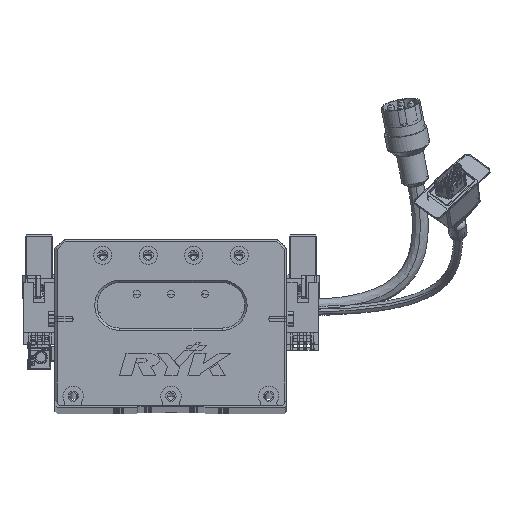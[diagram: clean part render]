
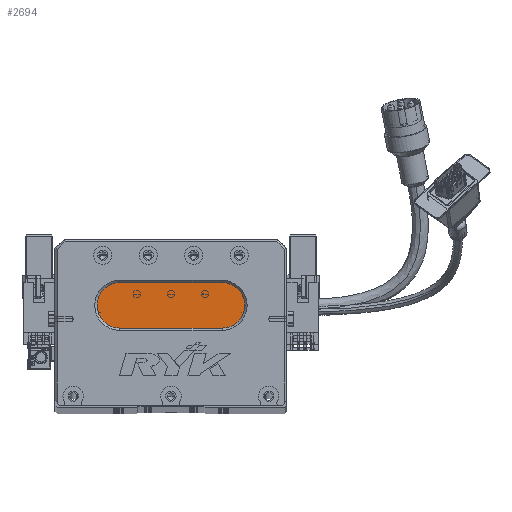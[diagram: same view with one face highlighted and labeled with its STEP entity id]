
A CAD part, top view. The second image highlights one B-rep face of the part: STEP entity #2694.
In plain terms, the highlighted planar face has unit normal (0, 0, 1) as drawn and (0, 0, -1) by its records, which use the part's own axes.
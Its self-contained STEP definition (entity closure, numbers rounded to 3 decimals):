
#611 = EDGE_CURVE ( 'NONE', #38231, #10631, #59065, .T. ) ;
#1949 = ORIENTED_EDGE ( 'NONE', *, *, #70136, .T. ) ;
#2694 = ADVANCED_FACE ( 'NONE', ( #69501 ), #73663, .T. ) ;
#9377 = CIRCLE ( 'NONE', #10289, 10. ) ;
#10289 = AXIS2_PLACEMENT_3D ( 'NONE', #35816, #64067, #52603 ) ;
#10631 = VERTEX_POINT ( 'NONE', #71357 ) ;
#11546 = ORIENTED_EDGE ( 'NONE', *, *, #39794, .T. ) ;
#12191 = AXIS2_PLACEMENT_3D ( 'NONE', #15388, #44870, #21767 ) ;
#12397 = CIRCLE ( 'NONE', #69295, 10. ) ;
#15388 = CARTESIAN_POINT ( 'NONE',  ( 73.5, 44., 13. ) ) ;
#21508 = CARTESIAN_POINT ( 'NONE',  ( 73.5, 34., 13. ) ) ;
#21767 = DIRECTION ( 'NONE',  ( -1., 0., 0. ) ) ;
#22023 = CARTESIAN_POINT ( 'NONE',  ( 73.5, 34., 13. ) ) ;
#23112 = EDGE_LOOP ( 'NONE', ( #1949, #70956, #51145, #62668, #11546 ) ) ;
#27033 = DIRECTION ( 'NONE',  ( 0., 0., -1. ) ) ;
#30213 = CARTESIAN_POINT ( 'NONE',  ( 28.5, 34., 13. ) ) ;
#30347 = VECTOR ( 'NONE', #67032, 1000. ) ;
#35816 = CARTESIAN_POINT ( 'NONE',  ( 28.5, 44., 13. ) ) ;
#37294 = VERTEX_POINT ( 'NONE', #30213 ) ;
#38026 = VERTEX_POINT ( 'NONE', #22023 ) ;
#38231 = VERTEX_POINT ( 'NONE', #66961 ) ;
#38454 = CARTESIAN_POINT ( 'NONE',  ( 28.5, 44., 13. ) ) ;
#38498 = DIRECTION ( 'NONE',  ( 0., 0., -1. ) ) ;
#39061 = EDGE_CURVE ( 'NONE', #37294, #38231, #9377, .T. ) ;
#39794 = EDGE_CURVE ( 'NONE', #10631, #60292, #42080, .T. ) ;
#41581 = DIRECTION ( 'NONE',  ( 1., 0., 0. ) ) ;
#42080 = LINE ( 'NONE', #59153, #70277 ) ;
#43059 = DIRECTION ( 'NONE',  ( -1., 0., 0. ) ) ;
#44870 = DIRECTION ( 'NONE',  ( 0., 0., -1. ) ) ;
#49387 = LINE ( 'NONE', #21508, #30347 ) ;
#51145 = ORIENTED_EDGE ( 'NONE', *, *, #39061, .T. ) ;
#52603 = DIRECTION ( 'NONE',  ( -1., 0., 0. ) ) ;
#59065 = CIRCLE ( 'NONE', #65663, 10. ) ;
#59153 = CARTESIAN_POINT ( 'NONE',  ( 73.5, 54., 13. ) ) ;
#60292 = VERTEX_POINT ( 'NONE', #71437 ) ;
#62668 = ORIENTED_EDGE ( 'NONE', *, *, #611, .T. ) ;
#64067 = DIRECTION ( 'NONE',  ( 0., 0., -1. ) ) ;
#65663 = AXIS2_PLACEMENT_3D ( 'NONE', #38454, #27033, #67716 ) ;
#66731 = CARTESIAN_POINT ( 'NONE',  ( 73.5, 44., 13. ) ) ;
#66961 = CARTESIAN_POINT ( 'NONE',  ( 18.5, 44., 13. ) ) ;
#67032 = DIRECTION ( 'NONE',  ( -1., 0., 0. ) ) ;
#67716 = DIRECTION ( 'NONE',  ( -1., 0., 0. ) ) ;
#69295 = AXIS2_PLACEMENT_3D ( 'NONE', #66731, #38498, #43059 ) ;
#69501 = FACE_OUTER_BOUND ( 'NONE', #23112, .T. ) ;
#70136 = EDGE_CURVE ( 'NONE', #60292, #38026, #12397, .T. ) ;
#70277 = VECTOR ( 'NONE', #41581, 1000. ) ;
#70956 = ORIENTED_EDGE ( 'NONE', *, *, #73079, .T. ) ;
#71357 = CARTESIAN_POINT ( 'NONE',  ( 28.5, 54., 13. ) ) ;
#71437 = CARTESIAN_POINT ( 'NONE',  ( 73.5, 54., 13. ) ) ;
#73079 = EDGE_CURVE ( 'NONE', #38026, #37294, #49387, .T. ) ;
#73663 = PLANE ( 'NONE',  #12191 ) ;
